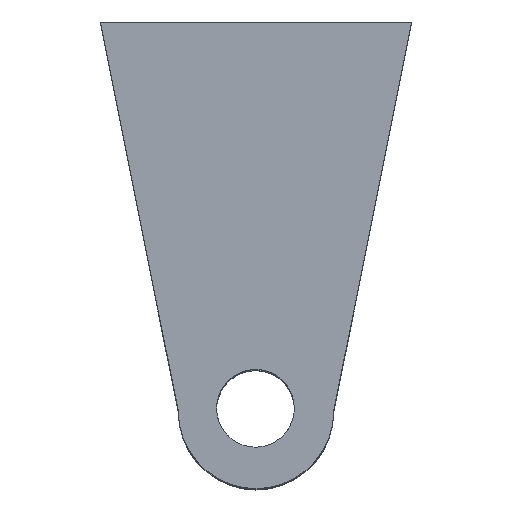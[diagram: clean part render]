
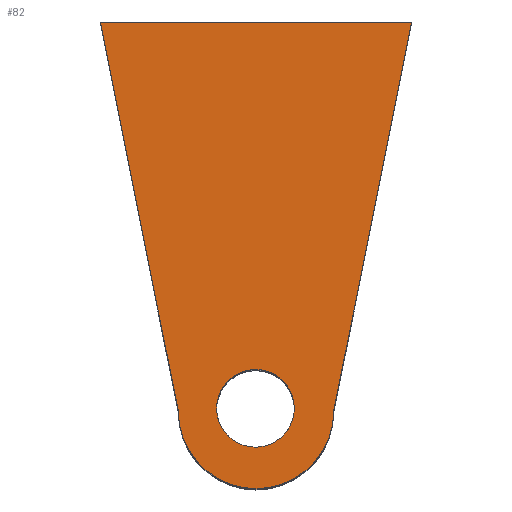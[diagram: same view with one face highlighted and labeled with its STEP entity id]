
A CAD part, top view. The second image highlights one B-rep face of the part: STEP entity #82.
In plain terms, the highlighted planar face has unit normal (0, 0, 1).
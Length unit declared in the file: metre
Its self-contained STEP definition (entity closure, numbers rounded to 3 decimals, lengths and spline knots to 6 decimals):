
#82 = ADVANCED_FACE( '', ( #105, #106 ), #107, .T. );
#105 = FACE_OUTER_BOUND( '', #135, .T. );
#106 = FACE_BOUND( '', #136, .T. );
#107 = PLANE( '', #137 );
#135 = EDGE_LOOP( '', ( #203, #204, #205, #206 ) );
#136 = EDGE_LOOP( '', ( #207, #208 ) );
#137 = AXIS2_PLACEMENT_3D( '', #209, #210, #211 );
#203 = ORIENTED_EDGE( '', *, *, #273, .T. );
#204 = ORIENTED_EDGE( '', *, *, #270, .T. );
#205 = ORIENTED_EDGE( '', *, *, #275, .T. );
#206 = ORIENTED_EDGE( '', *, *, #276, .F. );
#207 = ORIENTED_EDGE( '', *, *, #256, .F. );
#208 = ORIENTED_EDGE( '', *, *, #257, .F. );
#209 = CARTESIAN_POINT( '', ( 0., 0., 0.1 ) );
#210 = DIRECTION( '', ( 0., 0., 1. ) );
#211 = DIRECTION( '', ( 1., 0., 0. ) );
#256 = EDGE_CURVE( '', #296, #297, #298, .T. );
#257 = EDGE_CURVE( '', #297, #296, #299, .T. );
#270 = EDGE_CURVE( '', #322, #320, #323, .T. );
#273 = EDGE_CURVE( '', #327, #322, #328, .T. );
#275 = EDGE_CURVE( '', #320, #330, #331, .T. );
#276 = EDGE_CURVE( '', #327, #330, #332, .T. );
#296 = VERTEX_POINT( '', #356 );
#297 = VERTEX_POINT( '', #357 );
#298 = CIRCLE( '', #358, 0.005 );
#299 = CIRCLE( '', #359, 0.005 );
#320 = VERTEX_POINT( '', #387 );
#322 = VERTEX_POINT( '', #390 );
#323 = LINE( '', #391, #392 );
#327 = VERTEX_POINT( '', #397 );
#328 = CIRCLE( '', #398, 0.01 );
#330 = VERTEX_POINT( '', #401 );
#331 = LINE( '', #402, #403 );
#332 = LINE( '', #404, #405 );
#356 = CARTESIAN_POINT( '', ( 0.000914, -0.004572, 0.1 ) );
#357 = CARTESIAN_POINT( '', ( -0.001047, 0.005233, 0.1 ) );
#358 = AXIS2_PLACEMENT_3D( '', #428, #429, #430 );
#359 = AXIS2_PLACEMENT_3D( '', #431, #432, #433 );
#387 = CARTESIAN_POINT( '', ( 0.02, 0.05, 0.1 ) );
#390 = CARTESIAN_POINT( '', ( 0.01, 0., 0.1 ) );
#391 = CARTESIAN_POINT( '', ( 0.01, 0., 0.1 ) );
#392 = VECTOR( '', #454, 1. );
#397 = CARTESIAN_POINT( '', ( -0.01, 0., 0.1 ) );
#398 = AXIS2_PLACEMENT_3D( '', #459, #460, #461 );
#401 = CARTESIAN_POINT( '', ( -0.02, 0.05, 0.1 ) );
#402 = CARTESIAN_POINT( '', ( 0.02, 0.05, 0.1 ) );
#403 = VECTOR( '', #463, 1. );
#404 = CARTESIAN_POINT( '', ( -0.01, 0., 0.1 ) );
#405 = VECTOR( '', #464, 1. );
#428 = CARTESIAN_POINT( '', ( -0.000066, 0.00033, 0.1 ) );
#429 = DIRECTION( '', ( 0., 0., 1. ) );
#430 = DIRECTION( '', ( 0.196, -0.981, 0. ) );
#431 = CARTESIAN_POINT( '', ( -0.000066, 0.00033, 0.1 ) );
#432 = DIRECTION( '', ( 0., 0., 1. ) );
#433 = DIRECTION( '', ( 0.196, -0.981, 0. ) );
#454 = DIRECTION( '', ( 0.196, 0.981, 0. ) );
#459 = CARTESIAN_POINT( '', ( 0., 0., 0.1 ) );
#460 = DIRECTION( '', ( 0., 0., 1. ) );
#461 = DIRECTION( '', ( 1., 0., 0. ) );
#463 = DIRECTION( '', ( -1., 0., 0. ) );
#464 = DIRECTION( '', ( -0.196, 0.981, 0. ) );
